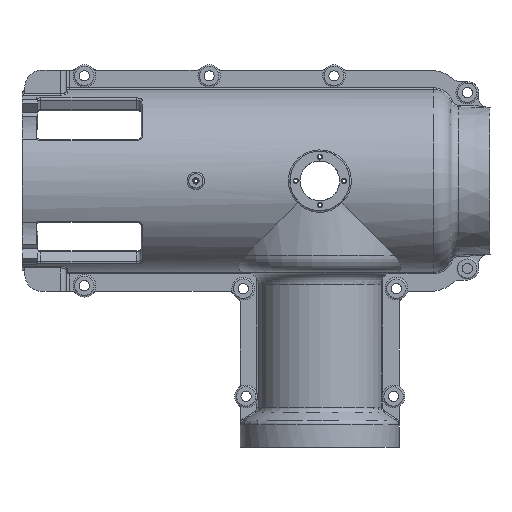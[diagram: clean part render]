
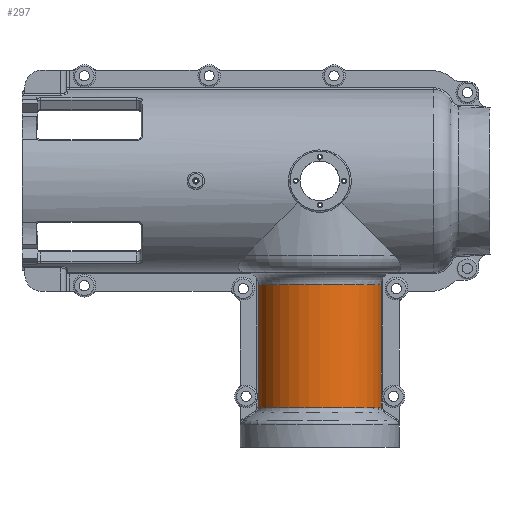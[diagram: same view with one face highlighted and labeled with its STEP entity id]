
A CAD part, front view. The second image highlights one B-rep face of the part: STEP entity #297.
In plain terms, the highlighted cylindrical face has radius 110 mm (diameter 220 mm), a partial arc.
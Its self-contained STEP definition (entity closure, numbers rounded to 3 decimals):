
#297=ADVANCED_FACE('',(#6598),#6600,.T.);
#6598=FACE_BOUND('',#6599,.T.);
#6599=EDGE_LOOP('',(#10356,#10357,#10358,#10359,#10360,#10361,#10362,#10363,#10364,
#10365,#10366,#10367,#10368));
#6600=CYLINDRICAL_SURFACE('',#6601,110.);
#6601=AXIS2_PLACEMENT_3D('',#6602,#6603,#6604);
#6602=CARTESIAN_POINT('',(0.,0.,161.06));
#6603=DIRECTION('',(0.,0.,1.));
#6604=DIRECTION('',(1.,0.,0.));
#10356=ORIENTED_EDGE('',*,*,#11439,.F.);
#10357=ORIENTED_EDGE('',*,*,#11170,.F.);
#10358=ORIENTED_EDGE('',*,*,#11438,.F.);
#10359=ORIENTED_EDGE('',*,*,#11440,.F.);
#10360=ORIENTED_EDGE('',*,*,#11441,.F.);
#10361=ORIENTED_EDGE('',*,*,#11270,.F.);
#10362=ORIENTED_EDGE('',*,*,#11442,.F.);
#10363=ORIENTED_EDGE('',*,*,#11443,.F.);
#10364=ORIENTED_EDGE('',*,*,#11444,.F.);
#10365=ORIENTED_EDGE('',*,*,#11445,.F.);
#10366=ORIENTED_EDGE('',*,*,#11446,.F.);
#10367=ORIENTED_EDGE('',*,*,#11447,.F.);
#10368=ORIENTED_EDGE('',*,*,#11448,.F.);
#11170=EDGE_CURVE('',#12198,#12200,#12201,.T.);
#11270=EDGE_CURVE('',#12364,#12366,#12367,.F.);
#11438=EDGE_CURVE('',#12627,#12198,#12629,.T.);
#11439=EDGE_CURVE('',#12200,#12630,#12631,.T.);
#11440=EDGE_CURVE('',#12632,#12627,#12633,.F.);
#11441=EDGE_CURVE('',#12366,#12632,#12634,.F.);
#11442=EDGE_CURVE('',#12635,#12364,#12636,.F.);
#11443=EDGE_CURVE('',#12637,#12635,#12638,.F.);
#11444=EDGE_CURVE('',#12639,#12637,#12640,.F.);
#11445=EDGE_CURVE('',#12641,#12639,#12642,.F.);
#11446=EDGE_CURVE('',#12643,#12641,#12644,.T.);
#11447=EDGE_CURVE('',#12645,#12643,#12646,.T.);
#11448=EDGE_CURVE('',#12630,#12645,#12647,.T.);
#12198=VERTEX_POINT('',#16460);
#12200=VERTEX_POINT('',#16464);
#12201=B_SPLINE_CURVE_WITH_KNOTS('',3,
(#16465,#16466,#16467,#16468,#16469,#16470,#16471),
.UNSPECIFIED.,.F.,.F.,
(4,1,1,1,4),
(0.,0.249,0.499,0.749,1.),
.UNSPECIFIED.);
#12364=VERTEX_POINT('',#17564);
#12366=VERTEX_POINT('',#17569);
#12367=B_SPLINE_CURVE_WITH_KNOTS('',3,
(#17570,#17571,#17572,#17573,#17574,#17575,#17576),
.UNSPECIFIED.,.F.,.F.,
(4,1,1,1,4),
(0.,0.25,0.499,0.75,1.),
.UNSPECIFIED.);
#12627=VERTEX_POINT('',#19612);
#12629=LINE('',#19662,#19663);
#12630=VERTEX_POINT('',#19665);
#12631=LINE('',#19666,#19667);
#12632=VERTEX_POINT('',#19669);
#12633=CIRCLE('',#19670,110.);
#12634=LINE('',#19674,#19675);
#12635=VERTEX_POINT('',#19677);
#12636=LINE('',#19678,#19679);
#12637=VERTEX_POINT('',#19681);
#12638=B_SPLINE_CURVE_WITH_KNOTS('',3,
(#19682,#19683,#19684,#19685,#19686,#19687,#19688,#19689,#19690,#19691),
.UNSPECIFIED.,.F.,.F.,
(4,1,1,1,1,1,1,4),
(0.,0.192,0.357,0.495,0.623,0.76,
0.884,1.),
.UNSPECIFIED.);
#12639=VERTEX_POINT('',#19692);
#12640=B_SPLINE_CURVE_WITH_KNOTS('',3,
(#19693,#19694,#19695,#19696,#19697,#19698,#19699,#19700,#19701,#19702,#19703),
.UNSPECIFIED.,.F.,.F.,
(4,1,1,1,1,1,1,1,4),
(0.,0.179,0.316,0.401,0.463,0.537,
0.645,0.805,1.),
.UNSPECIFIED.);
#12641=VERTEX_POINT('',#19704);
#12642=LINE('',#19705,#19706);
#12643=VERTEX_POINT('',#19708);
#12644=CIRCLE('',#19709,110.);
#12645=VERTEX_POINT('',#19713);
#12646=LINE('',#19714,#19715);
#12647=B_SPLINE_CURVE_WITH_KNOTS('',3,
(#19717,#19718,#19719,#19720,#19721,#19722,#19723,#19724,#19725,#19726,#19727,#19728,
#19729,#19730,#19731,#19732,#19733),
.UNSPECIFIED.,.F.,.F.,
(4,1,1,1,1,1,1,1,1,1,1,1,1,1,4),
(0.,0.093,0.177,0.248,0.318,0.383,
0.446,0.508,0.57,0.634,0.702,
0.773,0.848,0.924,1.),
.UNSPECIFIED.);
#16460=CARTESIAN_POINT('',(107.861,21.585,161.06));
#16464=CARTESIAN_POINT('',(107.895,21.416,161.089));
#16465=CARTESIAN_POINT('',(107.861,21.585,161.06));
#16466=CARTESIAN_POINT('',(107.864,21.571,161.062));
#16467=CARTESIAN_POINT('',(107.87,21.543,161.066));
#16468=CARTESIAN_POINT('',(107.878,21.501,161.073));
#16469=CARTESIAN_POINT('',(107.887,21.458,161.08));
#16470=CARTESIAN_POINT('',(107.892,21.43,161.086));
#16471=CARTESIAN_POINT('',(107.895,21.416,161.089));
#17564=CARTESIAN_POINT('',(-107.895,21.416,161.089));
#17569=CARTESIAN_POINT('',(-107.861,21.585,161.06));
#17570=CARTESIAN_POINT('',(-107.861,21.585,161.06));
#17571=CARTESIAN_POINT('',(-107.864,21.571,161.062));
#17572=CARTESIAN_POINT('',(-107.87,21.543,161.066));
#17573=CARTESIAN_POINT('',(-107.878,21.501,161.073));
#17574=CARTESIAN_POINT('',(-107.887,21.458,161.08));
#17575=CARTESIAN_POINT('',(-107.892,21.43,161.086));
#17576=CARTESIAN_POINT('',(-107.895,21.416,161.089));
#19612=CARTESIAN_POINT('',(107.861,21.585,183.06));
#19662=CARTESIAN_POINT('',(107.861,21.585,183.06));
#19663=VECTOR('',#19664,1.);
#19664=DIRECTION('',(0.,0.,-1.));
#19665=CARTESIAN_POINT('',(107.895,21.416,374.272));
#19666=CARTESIAN_POINT('',(107.895,21.416,161.089));
#19667=VECTOR('',#19668,1.);
#19668=DIRECTION('',(0.,0.,1.));
#19669=CARTESIAN_POINT('',(-107.861,21.585,183.06));
#19670=AXIS2_PLACEMENT_3D('',#19671,#19672,#19673);
#19671=CARTESIAN_POINT('',(0.,0.,183.06));
#19672=DIRECTION('',(0.,0.,1.));
#19673=DIRECTION('',(0.981,0.196,0.));
#19674=CARTESIAN_POINT('',(-107.861,21.585,183.06));
#19675=VECTOR('',#19676,1.);
#19676=DIRECTION('',(0.,0.,-1.));
#19677=CARTESIAN_POINT('',(-107.895,21.416,374.272));
#19678=CARTESIAN_POINT('',(-107.895,21.416,161.089));
#19679=VECTOR('',#19680,1.);
#19680=DIRECTION('',(0.,0.,1.));
#19681=CARTESIAN_POINT('',(-107.92,21.293,380.));
#19682=CARTESIAN_POINT('',(-107.895,21.416,374.272));
#19683=CARTESIAN_POINT('',(-107.895,21.415,374.628));
#19684=CARTESIAN_POINT('',(-107.897,21.406,375.297));
#19685=CARTESIAN_POINT('',(-107.903,21.378,376.234));
#19686=CARTESIAN_POINT('',(-107.908,21.35,377.058));
#19687=CARTESIAN_POINT('',(-107.913,21.325,377.832));
#19688=CARTESIAN_POINT('',(-107.917,21.306,378.583));
#19689=CARTESIAN_POINT('',(-107.919,21.295,379.311));
#19690=CARTESIAN_POINT('',(-107.92,21.293,379.775));
#19691=CARTESIAN_POINT('',(-107.92,21.293,380.));
#19692=CARTESIAN_POINT('',(-107.895,21.416,385.728));
#19693=CARTESIAN_POINT('',(-107.92,21.293,380.));
#19694=CARTESIAN_POINT('',(-107.919,21.296,380.347));
#19695=CARTESIAN_POINT('',(-107.917,21.303,380.96));
#19696=CARTESIAN_POINT('',(-107.915,21.316,381.734));
#19697=CARTESIAN_POINT('',(-107.912,21.329,382.28));
#19698=CARTESIAN_POINT('',(-107.91,21.342,382.704));
#19699=CARTESIAN_POINT('',(-107.907,21.358,383.171));
#19700=CARTESIAN_POINT('',(-107.902,21.379,383.824));
#19701=CARTESIAN_POINT('',(-107.897,21.406,384.701));
#19702=CARTESIAN_POINT('',(-107.895,21.415,385.366));
#19703=CARTESIAN_POINT('',(-107.895,21.416,385.728));
#19704=CARTESIAN_POINT('',(-107.895,21.416,399.648));
#19705=CARTESIAN_POINT('',(-107.895,21.416,385.728));
#19706=VECTOR('',#19707,1.);
#19707=DIRECTION('',(0.,0.,1.));
#19708=CARTESIAN_POINT('',(107.895,21.416,399.648));
#19709=AXIS2_PLACEMENT_3D('',#19710,#19711,#19712);
#19710=CARTESIAN_POINT('',(0.,0.,399.648));
#19711=DIRECTION('',(0.,0.,1.));
#19712=DIRECTION('',(0.981,0.195,0.));
#19713=CARTESIAN_POINT('',(107.895,21.416,385.728));
#19714=CARTESIAN_POINT('',(107.895,21.416,385.728));
#19715=VECTOR('',#19716,1.);
#19716=DIRECTION('',(0.,0.,1.));
#19717=CARTESIAN_POINT('',(107.895,21.416,374.272));
#19718=CARTESIAN_POINT('',(107.895,21.415,374.617));
#19719=CARTESIAN_POINT('',(107.897,21.407,375.279));
#19720=CARTESIAN_POINT('',(107.903,21.378,376.22));
#19721=CARTESIAN_POINT('',(107.908,21.349,377.08));
#19722=CARTESIAN_POINT('',(107.913,21.324,377.872));
#19723=CARTESIAN_POINT('',(107.917,21.305,378.634));
#19724=CARTESIAN_POINT('',(107.919,21.294,379.368));
#19725=CARTESIAN_POINT('',(107.92,21.291,380.092));
#19726=CARTESIAN_POINT('',(107.919,21.296,380.821));
#19727=CARTESIAN_POINT('',(107.916,21.31,381.571));
#19728=CARTESIAN_POINT('',(107.912,21.331,382.352));
#19729=CARTESIAN_POINT('',(107.907,21.358,383.174));
#19730=CARTESIAN_POINT('',(107.901,21.386,384.023));
#19731=CARTESIAN_POINT('',(107.896,21.409,384.881));
#19732=CARTESIAN_POINT('',(107.895,21.415,385.447));
#19733=CARTESIAN_POINT('',(107.895,21.416,385.728));
